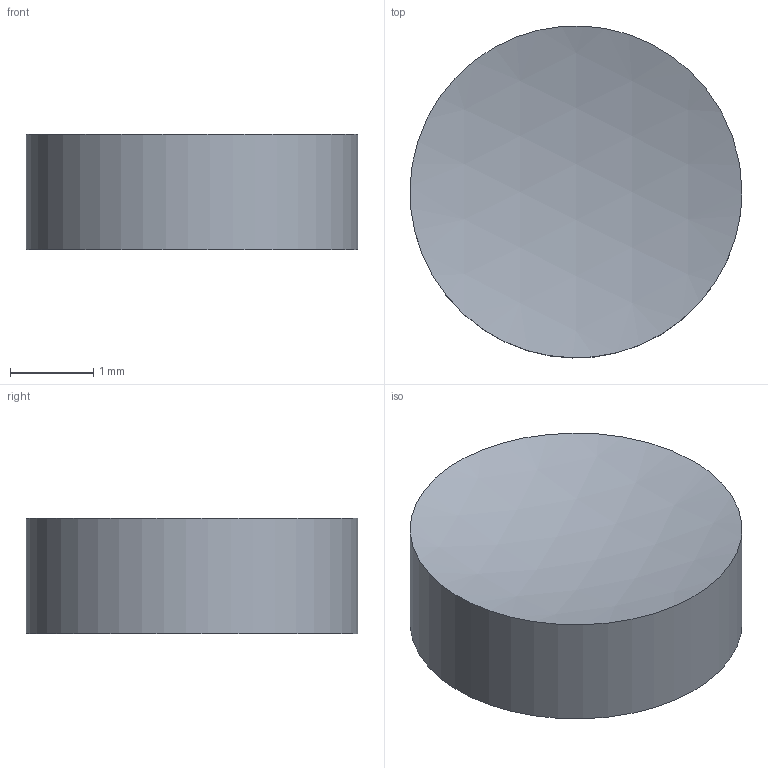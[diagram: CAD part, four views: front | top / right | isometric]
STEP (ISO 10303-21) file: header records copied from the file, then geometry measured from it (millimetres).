
FILE_DESCRIPTION ((), '1');
FILE_NAME ('C:\Users\r.sato\Desktop\', '2016-12-19T19:17:00', ('Unknown'), ('Unknown'), 'HarmonyWare STEP v1.9.13', 'HarmonyWare Translators', '');
FILE_SCHEMA (('CONFIG_CONTROL_DESIGN'));
Length unit declared in the file: millimetre
Products named in the file (1): NONE
Bounding box: 4 x 4 x 1.39 mm (x, y, z)
Volume: 13.7 mm3; surface area: 43.1 mm2
Topology: 1 solids, 1 shells, 3 faces, 3 edges, 2 vertices
Faces by surface type: sphere 2, cylinder 1
Full cylindrical faces by diameter (mm): 4 x1
Entity records: 151 total; most frequent: CARTESIAN_POINT 25, PERSON 8, ORGANIZATION 8, PERSON_AND_ORGANIZATION 8, ORIENTED_EDGE 6, DIRECTION 6, PERSON_AND_ORGANIZATION_ROLE 5, CC_DESIGN_PERSON_AND_ORGANIZATION_ASSIGNMENT 5
